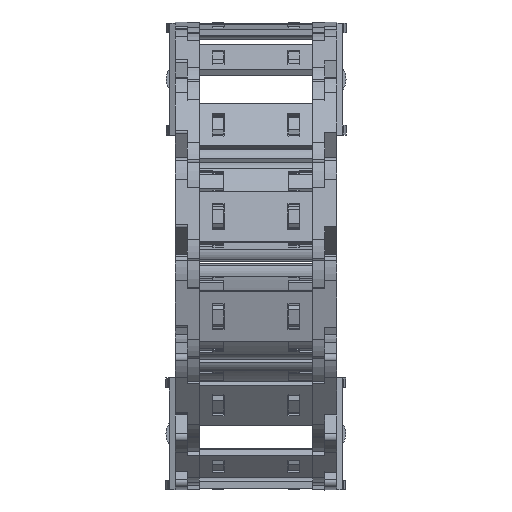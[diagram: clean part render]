
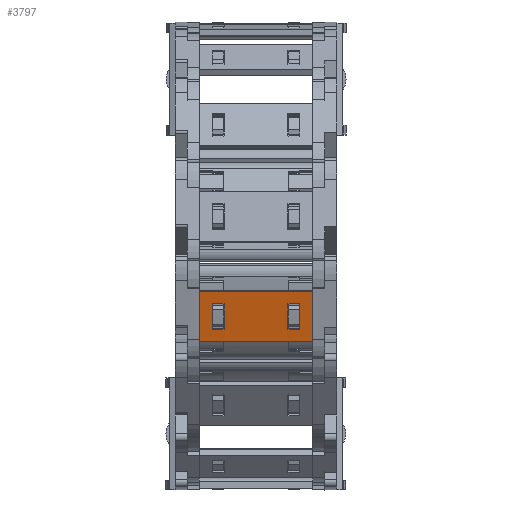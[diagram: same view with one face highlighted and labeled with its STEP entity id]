
A CAD part, top view. The second image highlights one B-rep face of the part: STEP entity #3797.
In plain terms, the highlighted planar face has unit normal (0, -0.259, 0.966) as drawn and (0, 1, 0) by its records, which use the part's own axes.
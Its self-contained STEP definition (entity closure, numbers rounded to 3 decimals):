
#2923=DIRECTION('',(0.,0.,1.));
#2924=VECTOR('',#2923,15.8);
#2925=CARTESIAN_POINT('',(20.24,1.5,-7.9));
#2926=LINE('',#2925,#2924);
#2930=DIRECTION('',(-1.,0.,0.));
#2931=VECTOR('',#2930,35.);
#2932=CARTESIAN_POINT('',(20.24,1.5,7.9));
#2933=LINE('',#2932,#2931);
#2937=DIRECTION('',(0.,0.,-1.));
#2938=VECTOR('',#2937,15.8);
#2939=CARTESIAN_POINT('',(-14.76,1.5,7.9));
#2940=LINE('',#2939,#2938);
#2944=DIRECTION('',(1.,0.,0.));
#2945=VECTOR('',#2944,3.648);
#2946=CARTESIAN_POINT('',(12.622,1.5,4.075));
#2947=LINE('',#2946,#2945);
#2951=DIRECTION('',(0.,0.,-1.));
#2952=VECTOR('',#2951,8.15);
#2953=CARTESIAN_POINT('',(16.27,1.5,4.075));
#2954=LINE('',#2953,#2952);
#2958=DIRECTION('',(-1.,0.,0.));
#2959=VECTOR('',#2958,3.648);
#2960=CARTESIAN_POINT('',(16.27,1.5,-4.075));
#2961=LINE('',#2960,#2959);
#2965=DIRECTION('',(0.,0.,-1.));
#2966=VECTOR('',#2965,8.15);
#2967=CARTESIAN_POINT('',(-7.142,1.5,4.075));
#2968=LINE('',#2967,#2966);
#2972=DIRECTION('',(-1.,0.,0.));
#2973=VECTOR('',#2972,3.648);
#2974=CARTESIAN_POINT('',(-7.142,1.5,-4.075));
#2975=LINE('',#2974,#2973);
#2979=DIRECTION('',(0.,0.,1.));
#2980=VECTOR('',#2979,8.15);
#2981=CARTESIAN_POINT('',(-10.79,1.5,-4.075));
#2982=LINE('',#2981,#2980);
#2986=DIRECTION('',(1.,0.,0.));
#2987=VECTOR('',#2986,3.648);
#2988=CARTESIAN_POINT('',(-10.79,1.5,4.075));
#2989=LINE('',#2988,#2987);
#3000=DIRECTION('',(-1.,0.,0.));
#3001=VECTOR('',#3000,35.);
#3002=CARTESIAN_POINT('',(20.24,1.5,-7.9));
#3003=LINE('',#3002,#3001);
#3208=DIRECTION('',(0.,0.,-1.));
#3209=VECTOR('',#3208,8.15);
#3210=CARTESIAN_POINT('',(12.622,1.5,4.075));
#3211=LINE('',#3210,#3209);
#3507=CARTESIAN_POINT('',(16.27,1.5,4.075));
#3508=VERTEX_POINT('',#3507);
#3509=CARTESIAN_POINT('',(12.622,1.5,4.075));
#3510=VERTEX_POINT('',#3509);
#3551=CARTESIAN_POINT('',(12.622,1.5,-4.075));
#3552=VERTEX_POINT('',#3551);
#3553=CARTESIAN_POINT('',(16.27,1.5,-4.075));
#3554=VERTEX_POINT('',#3553);
#3555=CARTESIAN_POINT('',(20.24,1.5,7.9));
#3557=VERTEX_POINT('',#3555);
#3559=CARTESIAN_POINT('',(20.24,1.5,-7.9));
#3560=VERTEX_POINT('',#3559);
#3583=CARTESIAN_POINT('',(-7.142,1.5,4.075));
#3584=CARTESIAN_POINT('',(-7.142,1.5,-4.075));
#3585=VERTEX_POINT('',#3583);
#3586=VERTEX_POINT('',#3584);
#3587=CARTESIAN_POINT('',(-10.79,1.5,-4.075));
#3588=VERTEX_POINT('',#3587);
#3589=CARTESIAN_POINT('',(-10.79,1.5,4.075));
#3590=VERTEX_POINT('',#3589);
#3591=CARTESIAN_POINT('',(-14.76,1.5,7.9));
#3592=VERTEX_POINT('',#3591);
#3595=CARTESIAN_POINT('',(-14.76,1.5,-7.9));
#3596=VERTEX_POINT('',#3595);
#3766=CARTESIAN_POINT('',(51.98,1.5,10.061));
#3767=DIRECTION('',(0.,-1.,0.));
#3768=DIRECTION('',(0.,0.,-1.));
#3769=AXIS2_PLACEMENT_3D('',#3766,#3767,#3768);
#3770=PLANE('',#3769);
#3771=ORIENTED_EDGE('',*,*,#3669,.T.);
#3772=ORIENTED_EDGE('',*,*,#3707,.T.);
#3773=ORIENTED_EDGE('',*,*,#3732,.T.);
#3775=ORIENTED_EDGE('',*,*,#3774,.F.);
#3776=EDGE_LOOP('',(#3771,#3772,#3773,#3775));
#3777=FACE_OUTER_BOUND('',#3776,.F.);
#3779=ORIENTED_EDGE('',*,*,#3778,.F.);
#3780=ORIENTED_EDGE('',*,*,#3608,.T.);
#3782=ORIENTED_EDGE('',*,*,#3781,.T.);
#3784=ORIENTED_EDGE('',*,*,#3783,.T.);
#3785=EDGE_LOOP('',(#3779,#3780,#3782,#3784));
#3786=FACE_BOUND('',#3785,.F.);
#3788=ORIENTED_EDGE('',*,*,#3787,.T.);
#3790=ORIENTED_EDGE('',*,*,#3789,.T.);
#3792=ORIENTED_EDGE('',*,*,#3791,.T.);
#3794=ORIENTED_EDGE('',*,*,#3793,.T.);
#3795=EDGE_LOOP('',(#3788,#3790,#3792,#3794));
#3796=FACE_BOUND('',#3795,.F.);
#3797=ADVANCED_FACE('',(#3777,#3786,#3796),#3770,.F.);
#3608=EDGE_CURVE('',#3510,#3508,#2947,.T.);
#3669=EDGE_CURVE('',#3560,#3557,#2926,.T.);
#3707=EDGE_CURVE('',#3557,#3592,#2933,.T.);
#3732=EDGE_CURVE('',#3592,#3596,#2940,.T.);
#3774=EDGE_CURVE('',#3560,#3596,#3003,.T.);
#3778=EDGE_CURVE('',#3510,#3552,#3211,.T.);
#3781=EDGE_CURVE('',#3508,#3554,#2954,.T.);
#3783=EDGE_CURVE('',#3554,#3552,#2961,.T.);
#3787=EDGE_CURVE('',#3585,#3586,#2968,.T.);
#3789=EDGE_CURVE('',#3586,#3588,#2975,.T.);
#3791=EDGE_CURVE('',#3588,#3590,#2982,.T.);
#3793=EDGE_CURVE('',#3590,#3585,#2989,.T.);
